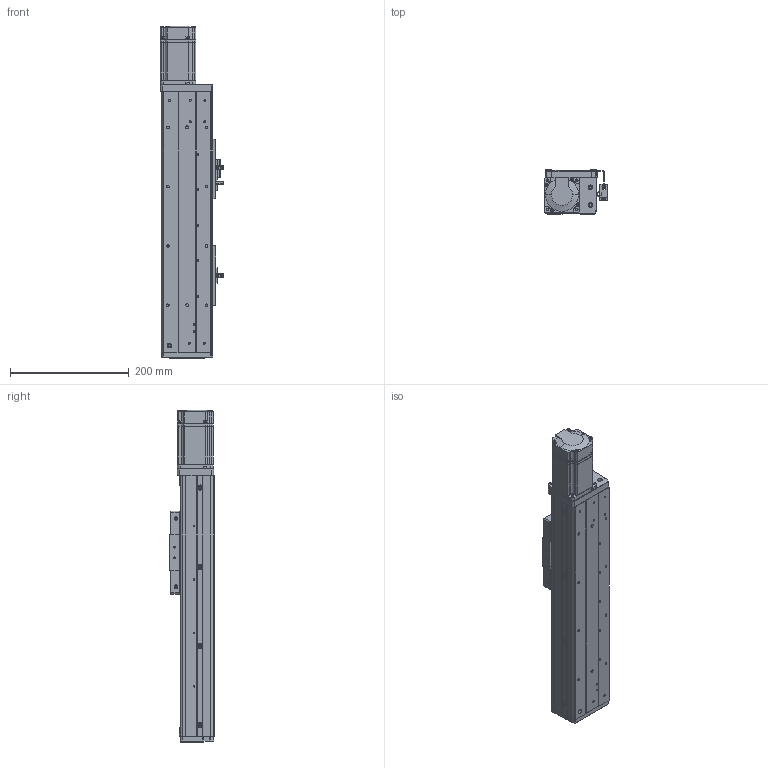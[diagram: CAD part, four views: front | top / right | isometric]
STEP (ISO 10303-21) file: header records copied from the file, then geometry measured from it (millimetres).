
FILE_DESCRIPTION (( 'STEP AP203' ), '1' );
FILE_NAME ('RY80F-L1610-300-MK.SLDASM_200.step', '2021-03-02T03:18:39', ( '盈信电脑' ), ( '东莞市道滘镇水果街19号' ), 'SwSTEP 2.0', 'SolidWorks 2012', '' );
FILE_SCHEMA (( 'CONFIG_CONTROL_DESIGN' ));
Length unit declared in the file: millimetre
Products named in the file (16): RY80F-L1610-300-MK.SLDASM_200; 侂狟200W萇儂; 覜茼ん672; RY80俋离覜茼え; 1; 蚥薯蝶紫輸; 672嫖萇羲壽假蚾釱; 滅袉蝶18-24; RY80F-綴裔啣(臏璃ㄘ; RY80F-滅鳥裔啣; RY80F-佪裝眻蟀ヶ裔啣(200W PCD70 M4); RY80F-300-祥凄詩湍-MK_200; RY80F-詩湍揤踡輸; RY80F-丝杆铝滑块(16丝杆）; RY80F-300丝杆直连型材盖板_200; RY80F-丝杆直连型材底座_200
Assembly tree (21 placements, depth 3):
  RY80F-L1610-300-MK.SLDASM_200
    RY80F-丝杆直连型材底座_200
    RY80F-300丝杆直连型材盖板_200  x2
    RY80F-丝杆铝滑块(16丝杆）
    RY80F-滅鳥裔啣
    RY80F-300-祥凄詩湍-MK_200
    RY80F-佪裝眻蟀ヶ裔啣(200W PCD70 M4)
    RY80F-詩湍揤踡輸  x2
    RY80F-綴裔啣(臏璃ㄘ
    672嫖萇羲壽假蚾釱  x2
    蚥薯蝶紫輸
    滅袉蝶18-24  x2
    侂狟200W萇儂
      1
    RY80俋离覜茼え
    覜茼ん672  x3
Bounding box: 107.2 x 75 x 560 mm (x, y, z)
Volume: 1284413.1 mm3; surface area: 464301.3 mm2
Topology: 20 solids, 20 shells, 1634 faces, 4473 edges, 2914 vertices
Faces by surface type: plane 797, cylinder 710, cone 109, bspline 18
Entity records: 45961 total; most frequent: CARTESIAN_POINT 9327, DIRECTION 7343, ORIENTED_EDGE 7218, EDGE_CURVE 3609, AXIS2_PLACEMENT_3D 2576, VERTEX_POINT 2366, LINE 2191, VECTOR 2191
